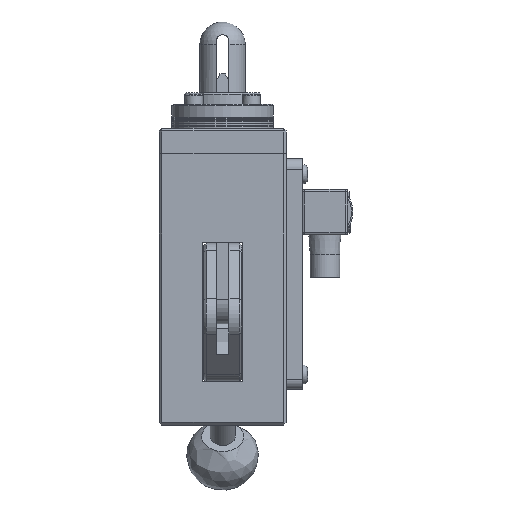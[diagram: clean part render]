
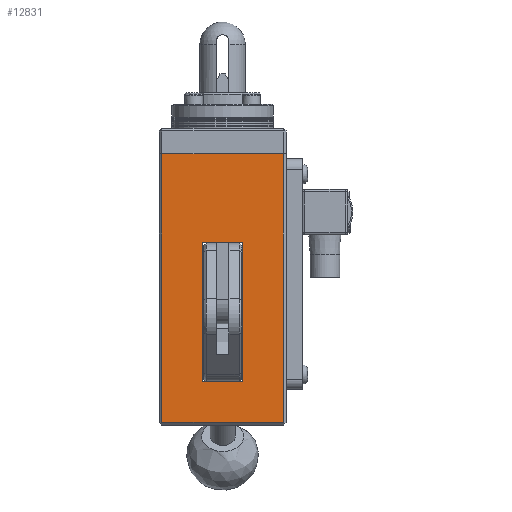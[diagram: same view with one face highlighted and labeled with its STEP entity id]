
A CAD part, left-side view. The second image highlights one B-rep face of the part: STEP entity #12831.
In plain terms, the highlighted planar face has unit normal (-1, 0, 0).
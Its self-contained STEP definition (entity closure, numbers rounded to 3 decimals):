
#372=FACE_BOUND('',#2002,.T.);
#765=PLANE('',#13953);
#1195=FACE_OUTER_BOUND('',#2001,.T.);
#2001=EDGE_LOOP('',(#9328,#9329,#9330,#9331));
#2002=EDGE_LOOP('',(#9332,#9333,#9334,#9335));
#2826=LINE('',#19728,#3756);
#2833=LINE('',#19758,#3763);
#2859=LINE('',#19837,#3789);
#2862=LINE('',#19843,#3792);
#2904=LINE('',#20057,#3834);
#2912=LINE('',#20079,#3842);
#2924=LINE('',#20119,#3854);
#2925=LINE('',#20121,#3855);
#3756=VECTOR('',#15581,10.);
#3763=VECTOR('',#15610,10.);
#3789=VECTOR('',#15686,10.);
#3792=VECTOR('',#15691,10.);
#3834=VECTOR('',#15923,10.);
#3842=VECTOR('',#15945,10.);
#3854=VECTOR('',#15989,10.);
#3855=VECTOR('',#15992,10.);
#5565=VERTEX_POINT('',#19725);
#5566=VERTEX_POINT('',#19727);
#5577=VERTEX_POINT('',#19755);
#5578=VERTEX_POINT('',#19757);
#5606=VERTEX_POINT('',#19835);
#5608=VERTEX_POINT('',#19841);
#5685=VERTEX_POINT('',#20056);
#5692=VERTEX_POINT('',#20078);
#6908=EDGE_CURVE('',#5566,#5565,#2826,.T.);
#6922=EDGE_CURVE('',#5577,#5578,#2833,.T.);
#6959=EDGE_CURVE('',#5606,#5577,#2859,.T.);
#6962=EDGE_CURVE('',#5608,#5606,#2862,.T.);
#7065=EDGE_CURVE('',#5685,#5566,#2904,.T.);
#7075=EDGE_CURVE('',#5692,#5685,#2912,.T.);
#7093=EDGE_CURVE('',#5565,#5692,#2924,.T.);
#7094=EDGE_CURVE('',#5578,#5608,#2925,.T.);
#9328=ORIENTED_EDGE('',*,*,#6959,.F.);
#9329=ORIENTED_EDGE('',*,*,#6962,.F.);
#9330=ORIENTED_EDGE('',*,*,#7094,.F.);
#9331=ORIENTED_EDGE('',*,*,#6922,.F.);
#9332=ORIENTED_EDGE('',*,*,#7065,.T.);
#9333=ORIENTED_EDGE('',*,*,#6908,.T.);
#9334=ORIENTED_EDGE('',*,*,#7093,.T.);
#9335=ORIENTED_EDGE('',*,*,#7075,.T.);
#12831=ADVANCED_FACE('',(#1195,#372),#765,.T.);
#13953=AXIS2_PLACEMENT_3D('',#20120,#15990,#15991);
#15581=DIRECTION('',(0.,0.,1.));
#15610=DIRECTION('',(0.,0.,1.));
#15686=DIRECTION('',(0.,1.,0.));
#15691=DIRECTION('',(0.,0.,-1.));
#15923=DIRECTION('',(0.,1.,0.));
#15945=DIRECTION('',(0.,0.,-1.));
#15989=DIRECTION('',(0.,-1.,0.));
#15990=DIRECTION('center_axis',(-1.,0.,0.));
#15991=DIRECTION('ref_axis',(0.,-1.,0.));
#15992=DIRECTION('',(0.,-1.,0.));
#19725=CARTESIAN_POINT('',(-36.509,7.434,18.5));
#19727=CARTESIAN_POINT('',(-36.509,7.434,-36.5));
#19728=CARTESIAN_POINT('',(-36.509,7.434,-45.));
#19755=CARTESIAN_POINT('',(-36.509,23.434,-52.5));
#19757=CARTESIAN_POINT('',(-36.509,23.434,53.5));
#19758=CARTESIAN_POINT('',(-36.509,23.434,-53.5));
#19835=CARTESIAN_POINT('',(-36.509,-24.566,-52.5));
#19837=CARTESIAN_POINT('',(-36.509,-6.816,-52.5));
#19841=CARTESIAN_POINT('',(-36.509,-24.566,53.5));
#19843=CARTESIAN_POINT('',(-36.509,-24.566,-53.5));
#20056=CARTESIAN_POINT('',(-36.509,-8.566,-36.5));
#20057=CARTESIAN_POINT('',(-36.509,-0.566,-36.5));
#20078=CARTESIAN_POINT('',(-36.509,-8.566,18.5));
#20079=CARTESIAN_POINT('',(-36.509,-8.566,-45.));
#20119=CARTESIAN_POINT('',(-36.509,-4.566,18.5));
#20120=CARTESIAN_POINT('Origin',(-36.509,-0.566,-53.5));
#20121=CARTESIAN_POINT('',(-36.509,-0.566,53.5));
